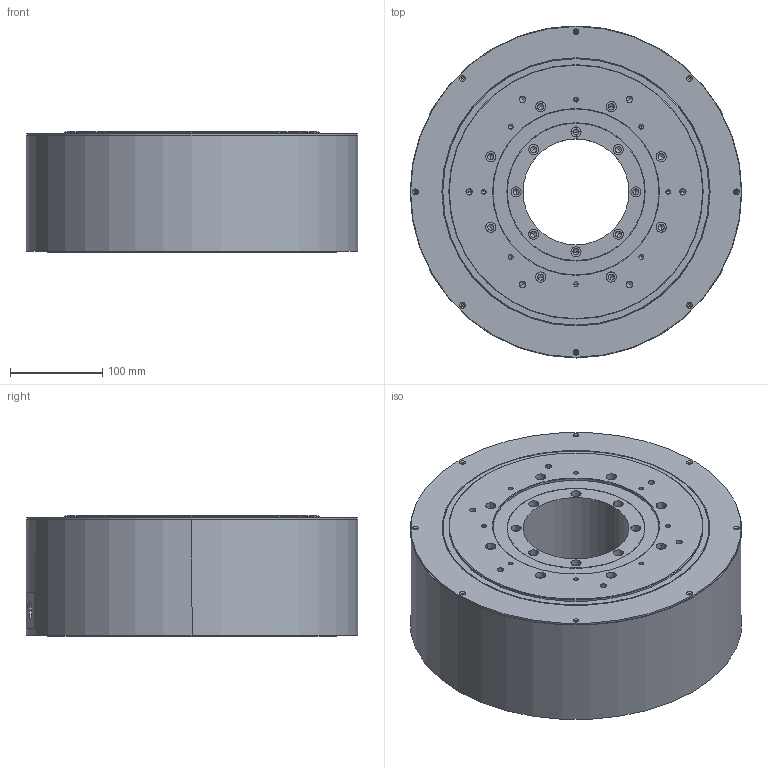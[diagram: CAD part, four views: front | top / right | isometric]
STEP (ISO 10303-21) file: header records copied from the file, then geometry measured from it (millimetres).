
FILE_DESCRIPTION((''),'2;1');
FILE_NAME('PM-DDFA1G','2016-02-05T',('jb17719'),(''),'PRO/ENGINEER BY PARAMETRIC TECHNOLOGY CORPORATION, 2008070','PRO/ENGINEER BY PARAMETRIC TECHNOLOGY CORPORATION, 2008070','');
FILE_SCHEMA(('AUTOMOTIVE_DESIGN_CC2 { 1 2 10303 214 -1 1 5 2 }'));
Length unit declared in the file: millimetre
Products named in the file (1): PM-DDFA1G
Bounding box: 360 x 360 x 131 mm (x, y, z)
Volume: 11612368.3 mm3; surface area: 728560.7 mm2
Topology: 1 solids, 1 shells, 369 faces, 852 edges, 465 vertices
Faces by surface type: cylinder 186, cone 140, plane 43
Entity records: 9893 total; most frequent: DIRECTION 1880, CARTESIAN_POINT 1572, ORIENTED_EDGE 1476, AXIS2_PLACEMENT_3D 773, EDGE_CURVE 738, VERTEX_POINT 465, EDGE_LOOP 465, CIRCLE 404
